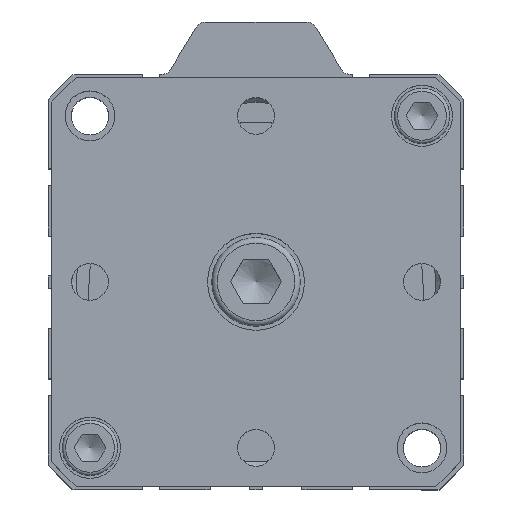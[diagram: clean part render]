
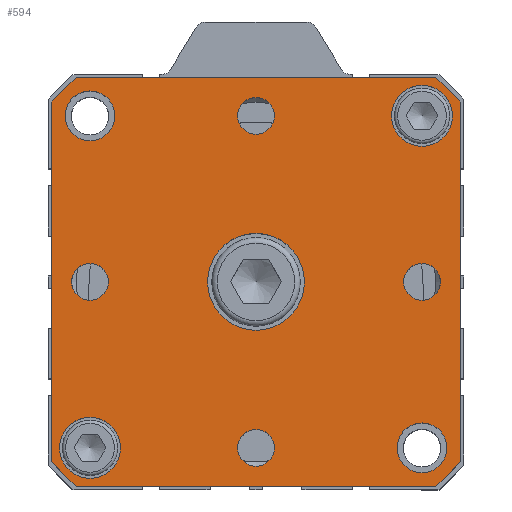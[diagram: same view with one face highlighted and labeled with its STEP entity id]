
A CAD part, top view. The second image highlights one B-rep face of the part: STEP entity #594.
In plain terms, the highlighted planar face has unit normal (0, 0, 1).
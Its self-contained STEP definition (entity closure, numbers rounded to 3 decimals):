
#196=CARTESIAN_POINT('',(32.859,35.684,65.5));
#197=VERTEX_POINT('',#196);
#198=CARTESIAN_POINT('',(37.359,31.184,65.5));
#199=VERTEX_POINT('',#198);
#200=CARTESIAN_POINT('',(32.859,35.684,65.5));
#201=DIRECTION('',(0.707,-0.707,0.0));
#202=VECTOR('',#201,6.364);
#203=LINE('',#200,#202);
#204=EDGE_CURVE('',#197,#199,#203,.T.);
#383=CARTESIAN_POINT('',(37.359,-33.816,65.5));
#384=VERTEX_POINT('',#383);
#385=CARTESIAN_POINT('',(37.359,31.184,65.5));
#386=DIRECTION('',(0.0,-1.0,0.0));
#387=VECTOR('',#386,65.);
#388=LINE('',#385,#387);
#389=EDGE_CURVE('',#199,#384,#388,.T.);
#406=CARTESIAN_POINT('',(32.859,-38.316,65.5));
#407=VERTEX_POINT('',#406);
#408=CARTESIAN_POINT('',(37.359,-33.816,65.5));
#409=DIRECTION('',(-0.707,-0.707,0.0));
#410=VECTOR('',#409,6.364);
#411=LINE('',#408,#410);
#412=EDGE_CURVE('',#384,#407,#411,.T.);
#430=CARTESIAN_POINT('',(-36.641,31.184,65.5));
#431=VERTEX_POINT('',#430);
#432=CARTESIAN_POINT('',(-32.141,35.684,65.5));
#433=VERTEX_POINT('',#432);
#434=CARTESIAN_POINT('',(-36.641,31.184,65.5));
#435=DIRECTION('',(0.707,0.707,0.0));
#436=VECTOR('',#435,6.364);
#437=LINE('',#434,#436);
#438=EDGE_CURVE('',#431,#433,#437,.T.);
#456=CARTESIAN_POINT('',(0.359,-1.316,65.5));
#457=DIRECTION('',(0.0,0.0,1.0));
#458=DIRECTION('',(1.0,0.0,0.0));
#459=AXIS2_PLACEMENT_3D('',#456,#457,#458);
#460=PLANE('',#459);
#461=ORIENTED_EDGE('',*,*,#204,.F.);
#462=CARTESIAN_POINT('',(-32.141,35.684,65.5));
#463=DIRECTION('',(1.0,0.0,0.0));
#464=VECTOR('',#463,65.0);
#465=LINE('',#462,#464);
#466=EDGE_CURVE('',#433,#197,#465,.T.);
#467=ORIENTED_EDGE('',*,*,#466,.F.);
#468=ORIENTED_EDGE('',*,*,#438,.F.);
#469=CARTESIAN_POINT('',(-36.641,-33.816,65.5));
#470=VERTEX_POINT('',#469);
#471=CARTESIAN_POINT('',(-36.641,-33.816,65.5));
#472=DIRECTION('',(0.0,1.0,0.0));
#473=VECTOR('',#472,65.0);
#474=LINE('',#471,#473);
#475=EDGE_CURVE('',#470,#431,#474,.T.);
#476=ORIENTED_EDGE('',*,*,#475,.F.);
#477=CARTESIAN_POINT('',(-32.141,-38.316,65.5));
#478=VERTEX_POINT('',#477);
#479=CARTESIAN_POINT('',(-32.141,-38.316,65.5));
#480=DIRECTION('',(-0.707,0.707,0.0));
#481=VECTOR('',#480,6.364);
#482=LINE('',#479,#481);
#483=EDGE_CURVE('',#478,#470,#482,.T.);
#484=ORIENTED_EDGE('',*,*,#483,.F.);
#485=CARTESIAN_POINT('',(32.859,-38.316,65.5));
#486=DIRECTION('',(-1.0,0.0,0.0));
#487=VECTOR('',#486,65.0);
#488=LINE('',#485,#487);
#489=EDGE_CURVE('',#407,#478,#488,.T.);
#490=ORIENTED_EDGE('',*,*,#489,.F.);
#491=ORIENTED_EDGE('',*,*,#412,.F.);
#492=ORIENTED_EDGE('',*,*,#389,.F.);
#493=EDGE_LOOP('',(#461,#467,#468,#476,#484,#490,#491,#492));
#494=FACE_OUTER_BOUND('',#493,.T.);
#495=CARTESIAN_POINT('',(9.109,-1.316,65.5));
#496=VERTEX_POINT('',#495);
#497=CARTESIAN_POINT('',(0.359,-1.316,65.5));
#498=DIRECTION('',(0.0,0.0,-1.0));
#499=DIRECTION('',(1.0,0.0,0.0));
#500=AXIS2_PLACEMENT_3D('',#497,#498,#499);
#501=CIRCLE('',#500,8.75);
#502=EDGE_CURVE('',#496,#496,#501,.T.);
#503=ORIENTED_EDGE('',*,*,#502,.T.);
#504=EDGE_LOOP('',(#503));
#505=FACE_BOUND('',#504,.T.);
#506=CARTESIAN_POINT('',(-24.141,-31.316,65.5));
#507=VERTEX_POINT('',#506);
#508=CARTESIAN_POINT('',(-29.641,-31.316,65.5));
#509=DIRECTION('',(0.0,0.0,-1.0));
#510=DIRECTION('',(1.0,0.0,0.0));
#511=AXIS2_PLACEMENT_3D('',#508,#509,#510);
#512=CIRCLE('',#511,5.5);
#513=EDGE_CURVE('',#507,#507,#512,.T.);
#514=ORIENTED_EDGE('',*,*,#513,.T.);
#515=EDGE_LOOP('',(#514));
#516=FACE_BOUND('',#515,.T.);
#517=CARTESIAN_POINT('',(35.859,28.684,65.5));
#518=VERTEX_POINT('',#517);
#519=CARTESIAN_POINT('',(30.359,28.684,65.5));
#520=DIRECTION('',(0.0,0.0,-1.0));
#521=DIRECTION('',(1.0,0.0,0.0));
#522=AXIS2_PLACEMENT_3D('',#519,#520,#521);
#523=CIRCLE('',#522,5.5);
#524=EDGE_CURVE('',#518,#518,#523,.T.);
#525=ORIENTED_EDGE('',*,*,#524,.T.);
#526=EDGE_LOOP('',(#525));
#527=FACE_BOUND('',#526,.T.);
#528=CARTESIAN_POINT('',(33.682,-1.316,65.5));
#529=VERTEX_POINT('',#528);
#530=CARTESIAN_POINT('',(30.359,-1.316,65.5));
#531=DIRECTION('',(0.0,0.0,-1.0));
#532=DIRECTION('',(1.0,0.0,0.0));
#533=AXIS2_PLACEMENT_3D('',#530,#531,#532);
#534=CIRCLE('',#533,3.324);
#535=EDGE_CURVE('',#529,#529,#534,.T.);
#536=ORIENTED_EDGE('',*,*,#535,.T.);
#537=EDGE_LOOP('',(#536));
#538=FACE_BOUND('',#537,.T.);
#539=CARTESIAN_POINT('',(3.682,-31.316,65.5));
#540=VERTEX_POINT('',#539);
#541=CARTESIAN_POINT('',(0.359,-31.316,65.5));
#542=DIRECTION('',(0.0,0.0,-1.0));
#543=DIRECTION('',(1.0,0.0,0.0));
#544=AXIS2_PLACEMENT_3D('',#541,#542,#543);
#545=CIRCLE('',#544,3.324);
#546=EDGE_CURVE('',#540,#540,#545,.T.);
#547=ORIENTED_EDGE('',*,*,#546,.T.);
#548=EDGE_LOOP('',(#547));
#549=FACE_BOUND('',#548,.T.);
#550=CARTESIAN_POINT('',(-26.318,-1.316,65.5));
#551=VERTEX_POINT('',#550);
#552=CARTESIAN_POINT('',(-29.641,-1.316,65.5));
#553=DIRECTION('',(0.0,0.0,-1.0));
#554=DIRECTION('',(1.0,0.0,0.0));
#555=AXIS2_PLACEMENT_3D('',#552,#553,#554);
#556=CIRCLE('',#555,3.324);
#557=EDGE_CURVE('',#551,#551,#556,.T.);
#558=ORIENTED_EDGE('',*,*,#557,.T.);
#559=EDGE_LOOP('',(#558));
#560=FACE_BOUND('',#559,.T.);
#561=CARTESIAN_POINT('',(3.682,28.684,65.5));
#562=VERTEX_POINT('',#561);
#563=CARTESIAN_POINT('',(0.359,28.684,65.5));
#564=DIRECTION('',(0.0,0.0,-1.0));
#565=DIRECTION('',(1.0,0.0,0.0));
#566=AXIS2_PLACEMENT_3D('',#563,#564,#565);
#567=CIRCLE('',#566,3.324);
#568=EDGE_CURVE('',#562,#562,#567,.T.);
#569=ORIENTED_EDGE('',*,*,#568,.T.);
#570=EDGE_LOOP('',(#569));
#571=FACE_BOUND('',#570,.T.);
#572=CARTESIAN_POINT('',(34.859,-31.316,65.5));
#573=VERTEX_POINT('',#572);
#574=CARTESIAN_POINT('',(30.359,-31.316,65.5));
#575=DIRECTION('',(0.0,0.0,-1.0));
#576=DIRECTION('',(-1.0,0.0,0.0));
#577=AXIS2_PLACEMENT_3D('',#574,#575,#576);
#578=CIRCLE('',#577,4.5);
#579=EDGE_CURVE('',#573,#573,#578,.T.);
#580=ORIENTED_EDGE('',*,*,#579,.T.);
#581=EDGE_LOOP('',(#580));
#582=FACE_BOUND('',#581,.T.);
#583=CARTESIAN_POINT('',(-25.141,28.684,65.5));
#584=VERTEX_POINT('',#583);
#585=CARTESIAN_POINT('',(-29.641,28.684,65.5));
#586=DIRECTION('',(0.0,0.0,-1.0));
#587=DIRECTION('',(-1.0,0.0,0.0));
#588=AXIS2_PLACEMENT_3D('',#585,#586,#587);
#589=CIRCLE('',#588,4.5);
#590=EDGE_CURVE('',#584,#584,#589,.T.);
#591=ORIENTED_EDGE('',*,*,#590,.T.);
#592=EDGE_LOOP('',(#591));
#593=FACE_BOUND('',#592,.T.);
#594=ADVANCED_FACE('',(#494,#505,#516,#527,#538,#549,#560,#571,#582,#593),#460,.T.);
